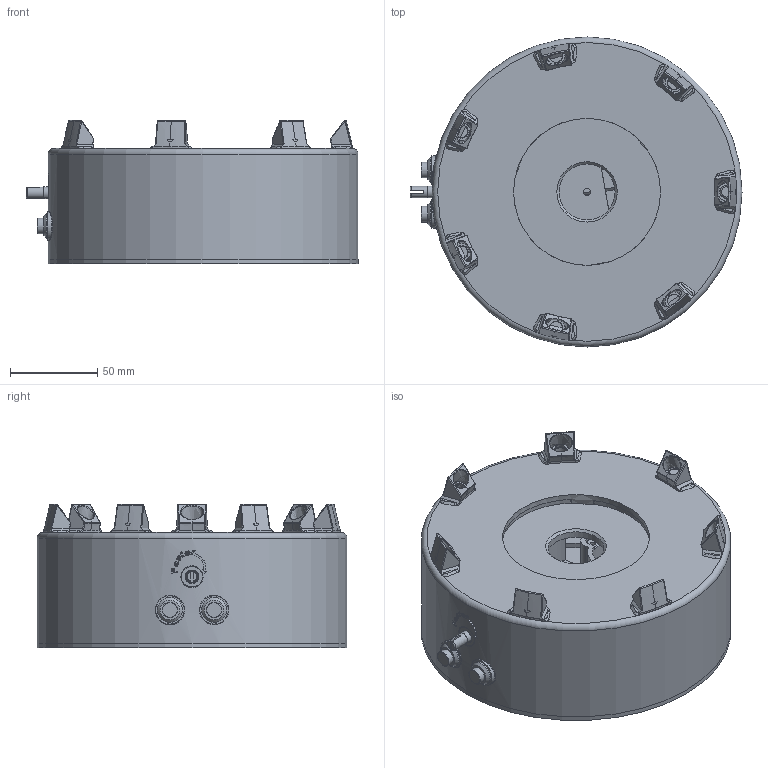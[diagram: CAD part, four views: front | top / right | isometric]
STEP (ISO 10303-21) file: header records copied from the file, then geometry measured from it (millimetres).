
FILE_DESCRIPTION(/* description */ (''),/* implementation_level */ '2;1');
FILE_NAME(/* name */ 'Head Spinnner (AA) v31.step',/* time_stamp */ '2024-09-08T05:41:21-04:00',/* author */ (''),/* organization */ (''),/* preprocessor_version */ 'ST-DEVELOPER v20',/* originating_system */ 'Autodesk Translation Framework v13.14.0.145',/* authorisation */ '');
FILE_SCHEMA (('AUTOMOTIVE_DESIGN { 1 0 10303 214 3 1 1 }'));
Length unit declared in the file: inch
Products named in the file (26): Head Spinnner (AA); Body; Static Plane of Roatation; Bottom; Battery Cover (1); Shell; Gasket; LED Fixtures; Light Fixture; Electronics; LED + Cap; 5mm LED Transparent; Transparent Bulb; Cathode; Anode; Semiconductor Pill; Onner_Conductor; LED cap v3; Controls; Plastic Latching Push Button; 3 State Switch; DC Motor Controller; 6V AA Battery Holder; Kwali on Pillar; Statue; Gear Train
Assembly tree (32 placements, depth 5):
  Head Spinnner (AA)
    Body
      Static Plane of Roatation
      Bottom
        Battery Cover (1)
      Shell
      Gasket
      LED Fixtures
        Light Fixture  x7
    Electronics
      LED + Cap
        5mm LED Transparent
          Transparent Bulb
          Cathode
          Anode
          Semiconductor Pill
          Onner_Conductor
        LED cap v3
      Controls
        Plastic Latching Push Button  x2
        3 State Switch
        DC Motor Controller
      6V AA Battery Holder
    Kwali on Pillar
      Statue
    Gear Train
Bounding box: 190.5 x 177.8 x 82.16 mm (x, y, z)
Volume: 382948.7 mm3; surface area: 267710.2 mm2
Topology: 39 solids, 39 shells, 1545 faces, 3912 edges, 2508 vertices
Faces by surface type: plane 740, bspline 381, cylinder 293, cone 91, sphere 30, torus 10
Full cylindrical faces by diameter (mm): 0.05 x5, 0.44 x2, 2.9 x16, 2.921 x4, 3 x6, 3.006 x14, 3.175 x14, 3.608 x7, 3.762 x3, 4 x1, 4.27 x1, 5 x1, 5.918 x1, 6.35 x1, 6.54 x1, 6.731 x1, 7.188 x1, 7.358 x14, 7.404 x2, 8.039 x1, 9.004 x2, 11.176 x2, 12.192 x2, 13.208 x2, 14.275 x2, 32.089 x1, 84.328 x1, 102.108 x1, 103.505 x1, 108.458 x1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
Entity records: 43894 total; most frequent: CARTESIAN_POINT 17403, ORIENTED_EDGE 5686, DIRECTION 4549, EDGE_CURVE 2843, VERTEX_POINT 1839, LINE 1663, VECTOR 1663, AXIS2_PLACEMENT_3D 1443
